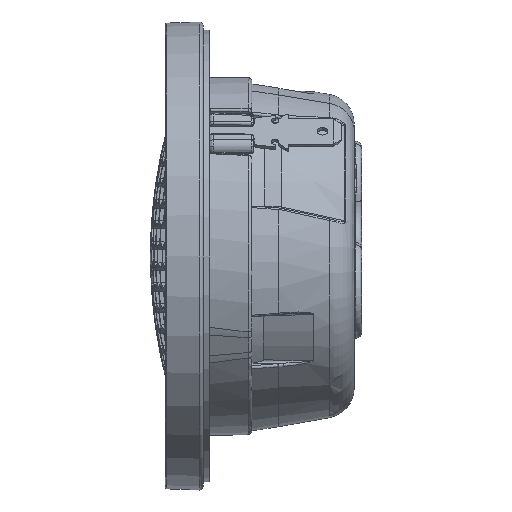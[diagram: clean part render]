
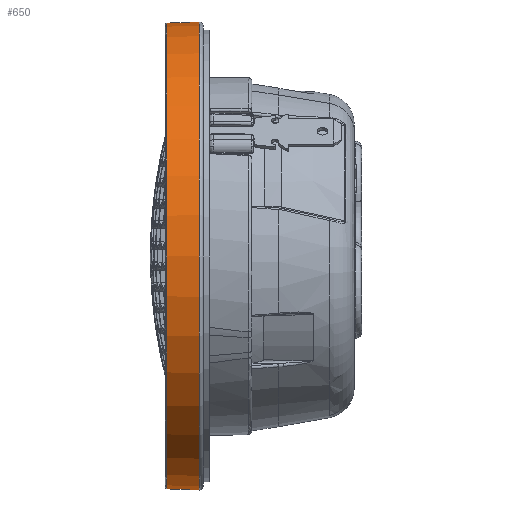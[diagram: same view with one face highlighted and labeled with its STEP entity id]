
A CAD part, left-side view. The second image highlights one B-rep face of the part: STEP entity #650.
In plain terms, the highlighted conical face has half-angle 2 degrees and reference radius 31.125 mm.
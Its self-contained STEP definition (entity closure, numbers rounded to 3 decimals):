
#650 = ADVANCED_FACE ( 'NONE', ( #82268 ), #51634, .T. ) ;
#3664 = CARTESIAN_POINT ( 'NONE',  ( 0., 20.599, 0. ) ) ;
#20523 = DIRECTION ( 'NONE',  ( 0., -0.999, -0.035 ) ) ;
#21557 = EDGE_CURVE ( 'NONE', #61975, #34326, #49705, .T. ) ;
#24647 = EDGE_LOOP ( 'NONE', ( #71981, #32006, #78523, #82846 ) ) ;
#24992 = LINE ( 'NONE', #73571, #77250 ) ;
#30268 = DIRECTION ( 'NONE',  ( 0., 0., 1. ) ) ;
#32006 = ORIENTED_EDGE ( 'NONE', *, *, #48513, .T. ) ;
#33323 = CIRCLE ( 'NONE', #66723, 30.957 ) ;
#34326 = VERTEX_POINT ( 'NONE', #35574 ) ;
#35469 = DIRECTION ( 'NONE',  ( 0., 1., 0. ) ) ;
#35574 = CARTESIAN_POINT ( 'NONE',  ( 0., 20.599, 31.107 ) ) ;
#35638 = LINE ( 'NONE', #58624, #74543 ) ;
#35734 = VERTEX_POINT ( 'NONE', #81943 ) ;
#42224 = CARTESIAN_POINT ( 'NONE',  ( 0., 24.888, -30.957 ) ) ;
#44982 = AXIS2_PLACEMENT_3D ( 'NONE', #73884, #46968, #30268 ) ;
#46968 = DIRECTION ( 'NONE',  ( 0., -1., 0. ) ) ;
#48513 = EDGE_CURVE ( 'NONE', #64270, #61975, #35638, .T. ) ;
#49705 = CIRCLE ( 'NONE', #71452, 31.107 ) ;
#51634 = CONICAL_SURFACE ( 'NONE', #44982, 31.125, 0.035 ) ;
#53267 = CARTESIAN_POINT ( 'NONE',  ( 0., 24.888, 0. ) ) ;
#58409 = EDGE_CURVE ( 'NONE', #35734, #34326, #24992, .T. ) ;
#58624 = CARTESIAN_POINT ( 'NONE',  ( 0., 20.087, -31.125 ) ) ;
#61975 = VERTEX_POINT ( 'NONE', #103302 ) ;
#64270 = VERTEX_POINT ( 'NONE', #42224 ) ;
#66723 = AXIS2_PLACEMENT_3D ( 'NONE', #53267, #75834, #67900 ) ;
#67900 = DIRECTION ( 'NONE',  ( 0., 0., 1. ) ) ;
#71452 = AXIS2_PLACEMENT_3D ( 'NONE', #3664, #35469, #89483 ) ;
#71981 = ORIENTED_EDGE ( 'NONE', *, *, #87580, .T. ) ;
#72569 = DIRECTION ( 'NONE',  ( 0., -0.999, 0.035 ) ) ;
#73571 = CARTESIAN_POINT ( 'NONE',  ( 0., 20.087, 31.125 ) ) ;
#73884 = CARTESIAN_POINT ( 'NONE',  ( 0., 20.087, 0. ) ) ;
#74543 = VECTOR ( 'NONE', #20523, 1000. ) ;
#75834 = DIRECTION ( 'NONE',  ( 0., -1., 0. ) ) ;
#77250 = VECTOR ( 'NONE', #72569, 1000. ) ;
#78523 = ORIENTED_EDGE ( 'NONE', *, *, #21557, .T. ) ;
#81943 = CARTESIAN_POINT ( 'NONE',  ( 0., 24.888, 30.957 ) ) ;
#82268 = FACE_OUTER_BOUND ( 'NONE', #24647, .T. ) ;
#82846 = ORIENTED_EDGE ( 'NONE', *, *, #58409, .F. ) ;
#87580 = EDGE_CURVE ( 'NONE', #35734, #64270, #33323, .T. ) ;
#89483 = DIRECTION ( 'NONE',  ( 0., 0., -1. ) ) ;
#103302 = CARTESIAN_POINT ( 'NONE',  ( 0., 20.599, -31.107 ) ) ;
